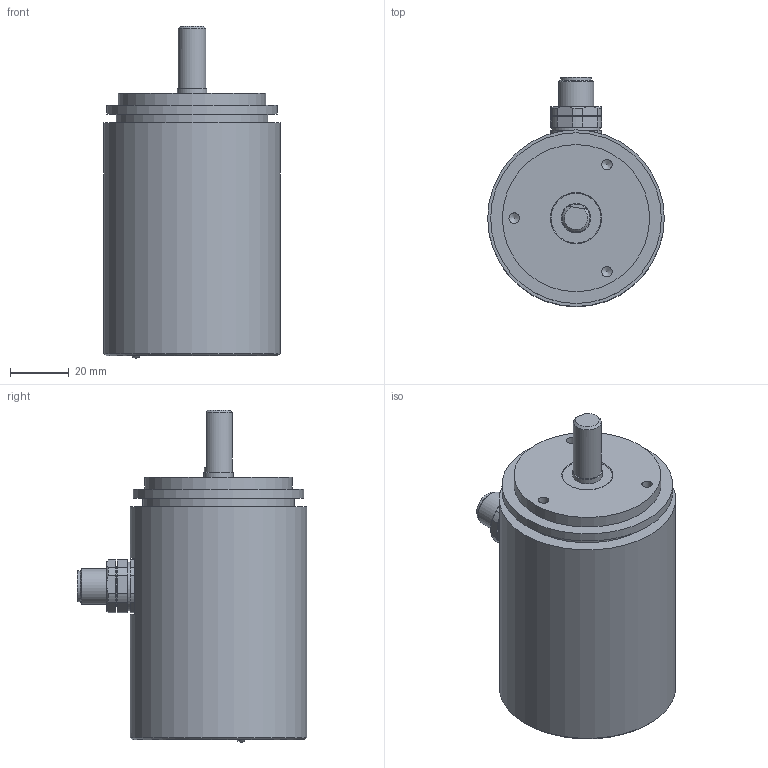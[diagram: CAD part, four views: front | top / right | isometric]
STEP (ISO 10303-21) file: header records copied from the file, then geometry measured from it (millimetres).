
FILE_DESCRIPTION(/* description */ ('Alibre Inc.'),/* implementation_level */ '2;1');
FILE_NAME(/* name */ 'export0',/* time_stamp */ '2016-10-21T14:16:05-04:00',/* author */ (''),/* organization */ (''),/* preprocessor_version */ 'ST-DEVELOPER v14',/* originating_system */ 'Alibre',/* authorisation */ '');
FILE_SCHEMA (('CONFIG_CONTROL_DESIGN'));
Length unit declared in the file: centimetre
Products named in the file (1): ID_1
Bounding box: 60 x 77.96 x 112.8 mm (x, y, z)
Volume: 161524.7 mm3; surface area: 41597.4 mm2
Topology: 3 solids, 43 shells, 278 faces, 475 edges, 313 vertices
Faces by surface type: plane 146, cylinder 101, cone 27, bspline 3, torus 1
Full cylindrical faces by diameter (mm): 1.4 x8, 2.87 x2, 3 x35, 3.545 x3, 8.3 x1, 9.5 x1, 9.9 x2, 10 x3, 10.5 x1, 11.8 x1, 12 x1, 13.5 x2, 14 x1, 15.2 x1, 16.5 x1, 17 x1, 20 x1, 26 x1, 46 x1, 50 x1, 51.5 x1, 55.8 x1, 58 x1, 60 x1
Entity records: 5837 total; most frequent: CARTESIAN_POINT 1083, DIRECTION 943, ORIENTED_EDGE 714, AXIS2_PLACEMENT_3D 476, FACE_BOUND 415, EDGE_LOOP 412, EDGE_CURVE 357, VERTEX_POINT 294
